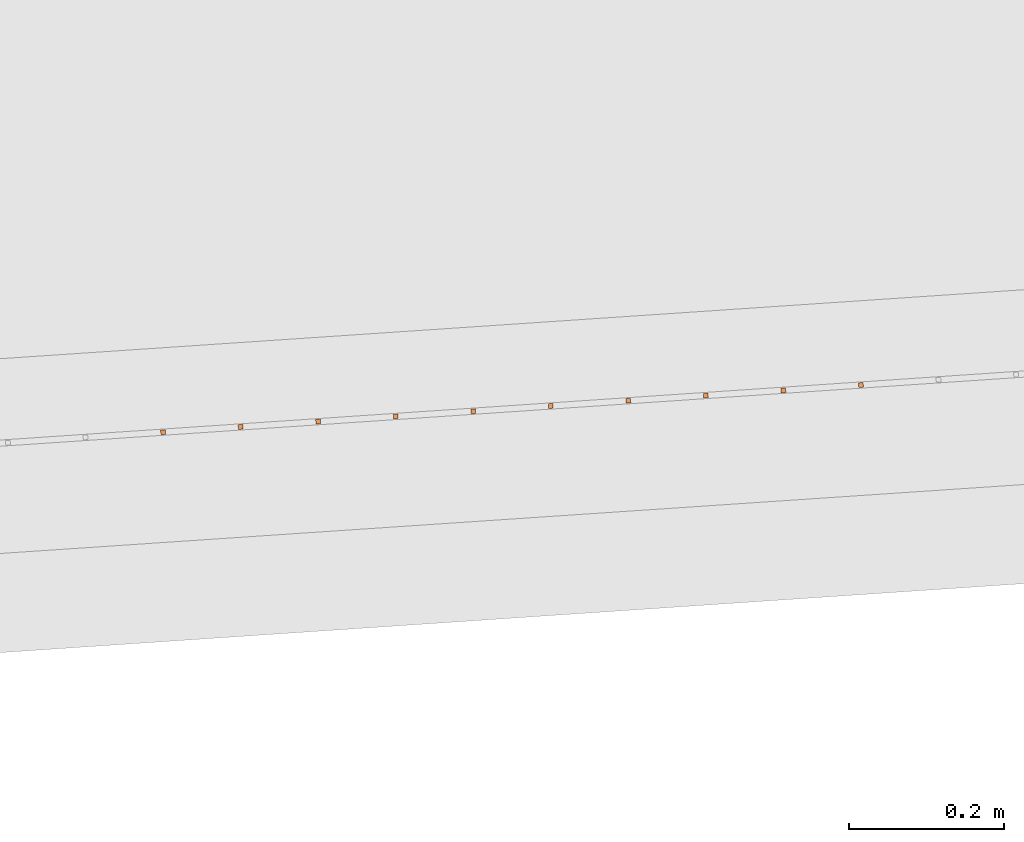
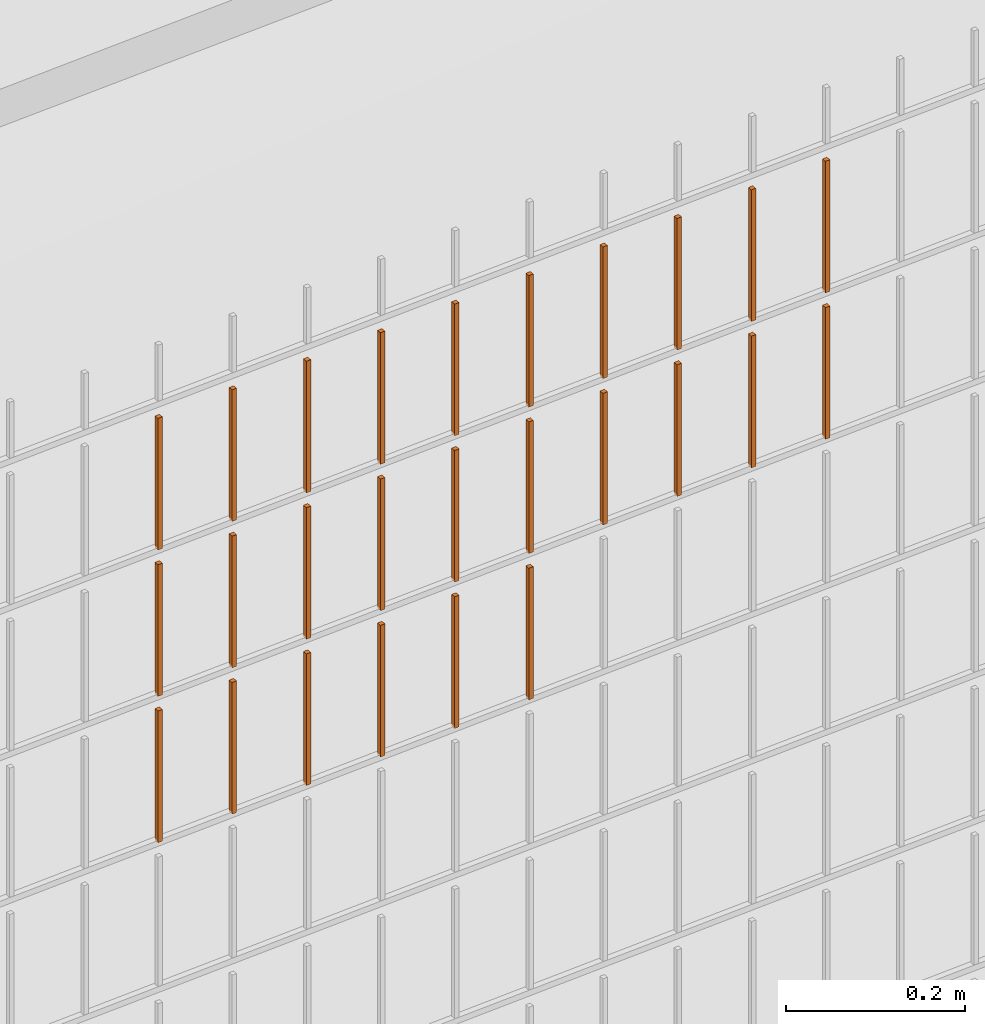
# One storey, part 282 of 1809: 26 proxies, 1 element without a shape of its own.
"""IFC2X3 building model written with IfcOpenShell, lengths in millimetres."""

from ifc_helpers import new_model, entity, si_unit, converted_unit, derived_unit, money_unit, direction, frame, origin_with_axes, place, context, subcontext, project, spatial, faceted_brep, source, transform, mapped, material, type_object, element, aggregate, save


model = new_model("IFC2X3")

# Units and contexts
model_context = context("Model", 3, precision=0.01, world=origin_with_axes(), true_north=direction((0.0, 1.0)))
body_context = subcontext(model_context, "Body", "Model", "MODEL_VIEW")
ifc_project = project(units=[si_unit("LENGTHUNIT", "METRE", prefix="MILLI"), si_unit("AREAUNIT", "SQUARE_METRE"), si_unit("VOLUMEUNIT", "CUBIC_METRE"), converted_unit("PLANEANGLEUNIT", "DEGREE", entity("IfcPlaneAngleMeasure", 0.0174532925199), si_unit("PLANEANGLEUNIT", "RADIAN"), dimensions=[0, 0, 0, 0, 0, 0, 0]), si_unit("SOLIDANGLEUNIT", "STERADIAN"), money_unit("EUR"), converted_unit("TIMEUNIT", "Year", entity("IfcTimeMeasure", 31556926.0), si_unit("TIMEUNIT", "SECOND"), dimensions=[0, 0, 1, 0, 0, 0, 0]), si_unit("MASSUNIT", "GRAM", prefix="KILO"), si_unit("THERMODYNAMICTEMPERATUREUNIT", "DEGREE_CELSIUS"), si_unit("LUMINOUSINTENSITYUNIT", "LUMEN"), si_unit("ENERGYUNIT", "JOULE", prefix="MEGA"), derived_unit("THERMALCONDUCTANCEUNIT", [(si_unit("POWERUNIT", "WATT"), 1), (si_unit("LENGTHUNIT", "METRE"), -1), (si_unit("THERMODYNAMICTEMPERATUREUNIT", "KELVIN"), -1)]), derived_unit("SPECIFICHEATCAPACITYUNIT", [(si_unit("ENERGYUNIT", "JOULE"), 1), (si_unit("MASSUNIT", "GRAM", prefix="KILO"), -1), (si_unit("THERMODYNAMICTEMPERATUREUNIT", "KELVIN"), -1)]), derived_unit("MASSDENSITYUNIT", [(si_unit("MASSUNIT", "GRAM", prefix="KILO"), 1), (si_unit("VOLUMEUNIT", "CUBIC_METRE"), -1)])], contexts=[model_context])

# Site, building, storey
site_placement = place(None, origin_with_axes())
site = spatial("IfcSite", under=ifc_project, at=site_placement, Name="Politse- ja Piirivalveameti ning Päästeameti ühishoone", CompositionType="ELEMENT")
building_placement = place(site_placement, origin_with_axes())
building = spatial("IfcBuilding", under=site, at=building_placement, Name="Politse- ja Piirivalveameti ning Päästeameti ühishoone", CompositionType="ELEMENT")
storey_placement = place(building_placement, origin_with_axes())
storey = spatial("IfcBuildingStorey", under=building, at=storey_placement, Name="Esimene korrus", CompositionType="ELEMENT", Elevation=0.0)

# Proxies
building_element_proxy_type_1 = type_object("IfcBuildingElementProxyType", Name="Railing Type", PredefinedType="NOTDEFINED")
proxy_1_placement = place(storey_placement, frame((89252.001212, -29183.4766571, 203.661247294), z_axis=(0.0, 0.0, 1.0), x_axis=(1.0, 0.0, 0.0)))
proxy_1 = element("IfcBuildingElementProxy", 1, at=proxy_1_placement, inside=storey, type_object=building_element_proxy_type_1, Name="PIIRDEAED")
ifc_material = material(Name="ET-03_Raud")
building_element_proxy_type_2 = type_object("IfcBuildingElementProxyType", Name="IfcBuildingElementProxy", PredefinedType="NOTDEFINED")
shared_shape_1 = source(origin_with_axes(), body_context, "Body", "Brep", [
    faceted_brep([(3.0, 3.0, -0.000752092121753), (-3.0, 3.0, -0.000752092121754), (-3.0, 3.0, 179.99926046), (3.0, 3.0, 179.99926046), (3.0, -3.0, 0.000752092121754), (-3.0, -3.0, 0.000752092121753), (-3.0, -3.0, 180.000764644), (3.0, -3.0, 180.000764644)], [[[0, 1, 2, 3]], [[0, 4, 5, 1]], [[1, 5, 6, 2]], [[3, 2, 6, 7]], [[4, 0, 3, 7]], [[5, 4, 7, 6]]]),
])
proxy_2_placement = place(proxy_1_placement, frame((-50212.2717659, -20689.4242251, 1614.617617), z_axis=(0.0, 0.0, 1.0), x_axis=(1.0, 0.0, 0.0)))
proxy_2 = element("IfcBuildingElementProxy", 2, at=proxy_2_placement, type_object=building_element_proxy_type_2, material=ifc_material, Name="BALUSTER - 001", context=body_context, shape_type="MappedRepresentation", body=[
    mapped(shared_shape_1, transform((0.0, 0.0, 0.0), x_axis=(-0.0673926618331, 0.997726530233, 0.0), y_axis=(-0.997726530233, -0.0673926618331, 0.0), z_axis=(0.0, 0.0, 1.0))),
])
shared_shape_2 = source(origin_with_axes(), body_context, "Body", "Brep", [
    faceted_brep([(3.0, 3.0, -0.000752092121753), (-3.0, 3.0, -0.000752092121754), (-3.0, 3.0, 179.99926046), (3.0, 3.0, 179.99926046), (3.0, -3.0, 0.000752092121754), (-3.0, -3.0, 0.000752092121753), (-3.0, -3.0, 180.000764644), (3.0, -3.0, 180.000764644)], [[[0, 1, 2, 3]], [[0, 4, 5, 1]], [[1, 5, 6, 2]], [[3, 2, 6, 7]], [[4, 0, 3, 7]], [[5, 4, 7, 6]]]),
])
proxy_3_placement = place(proxy_1_placement, frame((-50212.2717659, -20689.4242251, 1814.617617), z_axis=(0.0, 0.0, 1.0), x_axis=(1.0, 0.0, 0.0)))
proxy_3 = element("IfcBuildingElementProxy", 3, at=proxy_3_placement, type_object=building_element_proxy_type_2, material=ifc_material, Name="BALUSTER - 001", context=body_context, shape_type="MappedRepresentation", body=[
    mapped(shared_shape_2, transform((0.0, 0.0, 0.0), x_axis=(-0.0673926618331, 0.997726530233, 0.0), y_axis=(-0.997726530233, -0.0673926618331, 0.0), z_axis=(0.0, 0.0, 1.0))),
])
shared_shape_3 = source(origin_with_axes(), body_context, "Body", "Brep", [
    faceted_brep([(3.0, 3.0, -0.000752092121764), (-3.0, 3.0, -0.000752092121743), (-3.0, 3.0, 179.99926046), (3.0, 3.0, 179.99926046), (3.0, -3.0, 0.000752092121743), (-3.0, -3.0, 0.000752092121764), (-3.0, -3.0, 180.000764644), (3.0, -3.0, 180.000764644)], [[[0, 1, 2, 3]], [[0, 4, 5, 1]], [[1, 5, 6, 2]], [[3, 2, 6, 7]], [[4, 0, 3, 7]], [[5, 4, 7, 6]]]),
])
proxy_4_placement = place(proxy_1_placement, frame((-51110.2256431, -20750.0776208, 1414.39198936), z_axis=(0.0, 0.0, 1.0), x_axis=(1.0, 0.0, 0.0)))
proxy_4 = element("IfcBuildingElementProxy", 4, at=proxy_4_placement, type_object=building_element_proxy_type_2, material=ifc_material, Name="BALUSTER - 001", context=body_context, shape_type="MappedRepresentation", body=[
    mapped(shared_shape_3, transform((0.0, 0.0, 0.0), x_axis=(-0.0673926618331, 0.997726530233, 0.0), y_axis=(-0.997726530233, -0.0673926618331, 0.0), z_axis=(0.0, 0.0, 1.0))),
])
proxy_5_placement = place(proxy_1_placement, frame((-51110.2256431, -20750.0776208, 1614.39198936), z_axis=(0.0, 0.0, 1.0), x_axis=(1.0, 0.0, 0.0)))
proxy_5 = element("IfcBuildingElementProxy", 5, at=proxy_5_placement, type_object=building_element_proxy_type_2, material=ifc_material, Name="BALUSTER - 001", context=body_context, shape_type="MappedRepresentation", body=[
    mapped(shared_shape_3, transform((0.0, 0.0, 0.0), x_axis=(-0.0673926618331, 0.997726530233, 0.0), y_axis=(-0.997726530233, -0.0673926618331, 0.0), z_axis=(0.0, 0.0, 1.0))),
])
shared_shape_4 = source(origin_with_axes(), body_context, "Body", "Brep", [
    faceted_brep([(3.0, 3.0, -0.000752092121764), (-3.0, 3.0, -0.000752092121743), (-3.0, 3.0, 179.99926046), (3.0, 3.0, 179.99926046), (3.0, -3.0, 0.000752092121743), (-3.0, -3.0, 0.000752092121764), (-3.0, -3.0, 180.000764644), (3.0, -3.0, 180.000764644)], [[[0, 1, 2, 3]], [[0, 4, 5, 1]], [[1, 5, 6, 2]], [[3, 2, 6, 7]], [[4, 0, 3, 7]], [[5, 4, 7, 6]]]),
])
proxy_6_placement = place(proxy_1_placement, frame((-51110.2256431, -20750.0776208, 1814.39198936), z_axis=(0.0, 0.0, 1.0), x_axis=(1.0, 0.0, 0.0)))
proxy_6 = element("IfcBuildingElementProxy", 6, at=proxy_6_placement, type_object=building_element_proxy_type_2, material=ifc_material, Name="BALUSTER - 001", context=body_context, shape_type="MappedRepresentation", body=[
    mapped(shared_shape_4, transform((0.0, 0.0, 0.0), x_axis=(-0.0673926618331, 0.997726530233, 0.0), y_axis=(-0.997726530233, -0.0673926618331, 0.0), z_axis=(0.0, 0.0, 1.0))),
])
shared_shape_5 = source(origin_with_axes(), body_context, "Body", "Brep", [
    faceted_brep([(3.0, 3.0, -0.000752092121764), (-3.0, 3.0, -0.000752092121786), (-3.0, 3.0, 179.99926046), (3.0, 3.0, 179.99926046), (3.0, -3.0, 0.000752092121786), (-3.0, -3.0, 0.000752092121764), (-3.0, -3.0, 180.000764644), (3.0, -3.0, 180.000764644)], [[[0, 1, 2, 3]], [[0, 4, 5, 1]], [[1, 5, 6, 2]], [[3, 2, 6, 7]], [[4, 0, 3, 7]], [[5, 4, 7, 6]]]),
])
proxy_7_placement = place(proxy_1_placement, frame((-50711.135031, -20723.120556, 1814.49226831), z_axis=(0.0, 0.0, 1.0), x_axis=(1.0, 0.0, 0.0)))
proxy_7 = element("IfcBuildingElementProxy", 7, at=proxy_7_placement, type_object=building_element_proxy_type_2, material=ifc_material, Name="BALUSTER - 001", context=body_context, shape_type="MappedRepresentation", body=[
    mapped(shared_shape_5, transform((0.0, 0.0, 0.0), x_axis=(-0.0673926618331, 0.997726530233, 0.0), y_axis=(-0.997726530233, -0.0673926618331, 0.0), z_axis=(0.0, 0.0, 1.0))),
])
shared_shape_6 = source(origin_with_axes(), body_context, "Body", "Brep", [
    faceted_brep([(3.0, 3.0, -0.000752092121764), (-3.0, 3.0, -0.000752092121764), (-3.0, 3.0, 179.99926046), (3.0, 3.0, 179.99926046), (3.0, -3.0, 0.000752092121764), (-3.0, -3.0, 0.000752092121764), (-3.0, -3.0, 180.000764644), (3.0, -3.0, 180.000764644)], [[[0, 1, 2, 3]], [[0, 4, 5, 1]], [[1, 5, 6, 2]], [[3, 2, 6, 7]], [[4, 0, 3, 7]], [[5, 4, 7, 6]]]),
])
proxy_8_placement = place(proxy_1_placement, frame((-50411.817072, -20702.9027575, 1814.56747752), z_axis=(0.0, 0.0, 1.0), x_axis=(1.0, 0.0, 0.0)))
proxy_8 = element("IfcBuildingElementProxy", 8, at=proxy_8_placement, type_object=building_element_proxy_type_2, material=ifc_material, Name="BALUSTER - 001", context=body_context, shape_type="MappedRepresentation", body=[
    mapped(shared_shape_6, transform((0.0, 0.0, 0.0), x_axis=(-0.0673926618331, 0.997726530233, 0.0), y_axis=(-0.997726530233, -0.0673926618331, 0.0), z_axis=(0.0, 0.0, 1.0))),
])
shared_shape_7 = source(origin_with_axes(), body_context, "Body", "Brep", [
    faceted_brep([(3.0, 3.0, -0.000752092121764), (-3.0, 3.0, -0.000752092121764), (-3.0, 3.0, 179.99926046), (3.0, 3.0, 179.99926046), (3.0, -3.0, 0.000752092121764), (-3.0, -3.0, 0.000752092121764), (-3.0, -3.0, 180.000764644), (3.0, -3.0, 180.000764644)], [[[0, 1, 2, 3]], [[0, 4, 5, 1]], [[1, 5, 6, 2]], [[3, 2, 6, 7]], [[4, 0, 3, 7]], [[5, 4, 7, 6]]]),
])
proxy_9_placement = place(proxy_1_placement, frame((-50810.907684, -20729.8598222, 1414.46719857), z_axis=(0.0, 0.0, 1.0), x_axis=(1.0, 0.0, 0.0)))
proxy_9 = element("IfcBuildingElementProxy", 9, at=proxy_9_placement, type_object=building_element_proxy_type_2, material=ifc_material, Name="BALUSTER - 001", context=body_context, shape_type="MappedRepresentation", body=[
    mapped(shared_shape_7, transform((0.0, 0.0, 0.0), x_axis=(-0.0673926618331, 0.997726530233, 0.0), y_axis=(-0.997726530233, -0.0673926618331, 0.0), z_axis=(0.0, 0.0, 1.0))),
])
proxy_10_placement = place(proxy_1_placement, frame((-50810.907684, -20729.8598222, 1614.46719857), z_axis=(0.0, 0.0, 1.0), x_axis=(1.0, 0.0, 0.0)))
proxy_10 = element("IfcBuildingElementProxy", 10, at=proxy_10_placement, type_object=building_element_proxy_type_2, material=ifc_material, Name="BALUSTER - 001", context=body_context, shape_type="MappedRepresentation", body=[
    mapped(shared_shape_7, transform((0.0, 0.0, 0.0), x_axis=(-0.0673926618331, 0.997726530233, 0.0), y_axis=(-0.997726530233, -0.0673926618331, 0.0), z_axis=(0.0, 0.0, 1.0))),
])
shared_shape_8 = source(origin_with_axes(), body_context, "Body", "Brep", [
    faceted_brep([(3.0, 3.0, -0.000752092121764), (-3.0, 3.0, -0.000752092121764), (-3.0, 3.0, 179.99926046), (3.0, 3.0, 179.99926046), (3.0, -3.0, 0.000752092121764), (-3.0, -3.0, 0.000752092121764), (-3.0, -3.0, 180.000764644), (3.0, -3.0, 180.000764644)], [[[0, 1, 2, 3]], [[0, 4, 5, 1]], [[1, 5, 6, 2]], [[3, 2, 6, 7]], [[4, 0, 3, 7]], [[5, 4, 7, 6]]]),
])
proxy_11_placement = place(proxy_1_placement, frame((-50810.907684, -20729.8598222, 1814.46719857), z_axis=(0.0, 0.0, 1.0), x_axis=(1.0, 0.0, 0.0)))
proxy_11 = element("IfcBuildingElementProxy", 11, at=proxy_11_placement, type_object=building_element_proxy_type_2, material=ifc_material, Name="BALUSTER - 001", context=body_context, shape_type="MappedRepresentation", body=[
    mapped(shared_shape_8, transform((0.0, 0.0, 0.0), x_axis=(-0.0673926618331, 0.997726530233, 0.0), y_axis=(-0.997726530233, -0.0673926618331, 0.0), z_axis=(0.0, 0.0, 1.0))),
])
shared_shape_9 = source(origin_with_axes(), body_context, "Body", "Brep", [
    faceted_brep([(3.0, 3.0, -0.000752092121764), (-3.0, 3.0, -0.000752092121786), (-3.0, 3.0, 179.99926046), (3.0, 3.0, 179.99926046), (3.0, -3.0, 0.000752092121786), (-3.0, -3.0, 0.000752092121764), (-3.0, -3.0, 180.000764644), (3.0, -3.0, 180.000764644)], [[[0, 1, 2, 3]], [[0, 4, 5, 1]], [[1, 5, 6, 2]], [[3, 2, 6, 7]], [[4, 0, 3, 7]], [[5, 4, 7, 6]]]),
])
proxy_12_placement = place(proxy_1_placement, frame((-51010.4529901, -20743.3383546, 1814.4170591), z_axis=(0.0, 0.0, 1.0), x_axis=(1.0, 0.0, 0.0)))
proxy_12 = element("IfcBuildingElementProxy", 12, at=proxy_12_placement, type_object=building_element_proxy_type_2, material=ifc_material, Name="BALUSTER - 001", context=body_context, shape_type="MappedRepresentation", body=[
    mapped(shared_shape_9, transform((0.0, 0.0, 0.0), x_axis=(-0.0673926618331, 0.997726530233, 0.0), y_axis=(-0.997726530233, -0.0673926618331, 0.0), z_axis=(0.0, 0.0, 1.0))),
])
shared_shape_10 = source(origin_with_axes(), body_context, "Body", "Brep", [
    faceted_brep([(3.0, 3.0, -0.000752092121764), (-3.0, 3.0, -0.000752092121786), (-3.0, 3.0, 179.99926046), (3.0, 3.0, 179.99926046), (3.0, -3.0, 0.000752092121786), (-3.0, -3.0, 0.000752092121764), (-3.0, -3.0, 180.000764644), (3.0, -3.0, 180.000764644)], [[[0, 1, 2, 3]], [[0, 4, 5, 1]], [[1, 5, 6, 2]], [[3, 2, 6, 7]], [[4, 0, 3, 7]], [[5, 4, 7, 6]]]),
])
proxy_13_placement = place(proxy_1_placement, frame((-51010.4529901, -20743.3383546, 1414.4170591), z_axis=(0.0, 0.0, 1.0), x_axis=(1.0, 0.0, 0.0)))
proxy_13 = element("IfcBuildingElementProxy", 13, at=proxy_13_placement, type_object=building_element_proxy_type_2, material=ifc_material, Name="BALUSTER - 001", context=body_context, shape_type="MappedRepresentation", body=[
    mapped(shared_shape_10, transform((0.0, 0.0, 0.0), x_axis=(-0.0673926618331, 0.997726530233, 0.0), y_axis=(-0.997726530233, -0.0673926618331, 0.0), z_axis=(0.0, 0.0, 1.0))),
])
proxy_14_placement = place(proxy_1_placement, frame((-51010.4529901, -20743.3383546, 1614.4170591), z_axis=(0.0, 0.0, 1.0), x_axis=(1.0, 0.0, 0.0)))
proxy_14 = element("IfcBuildingElementProxy", 14, at=proxy_14_placement, type_object=building_element_proxy_type_2, material=ifc_material, Name="BALUSTER - 001", context=body_context, shape_type="MappedRepresentation", body=[
    mapped(shared_shape_10, transform((0.0, 0.0, 0.0), x_axis=(-0.0673926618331, 0.997726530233, 0.0), y_axis=(-0.997726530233, -0.0673926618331, 0.0), z_axis=(0.0, 0.0, 1.0))),
])
shared_shape_11 = source(origin_with_axes(), body_context, "Body", "Brep", [
    faceted_brep([(3.0, 3.0, -0.000752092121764), (-3.0, 3.0, -0.000752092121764), (-3.0, 3.0, 179.99926046), (3.0, 3.0, 179.99926046), (3.0, -3.0, 0.000752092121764), (-3.0, -3.0, 0.000752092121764), (-3.0, -3.0, 180.000764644), (3.0, -3.0, 180.000764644)], [[[0, 1, 2, 3]], [[0, 4, 5, 1]], [[1, 5, 6, 2]], [[3, 2, 6, 7]], [[4, 0, 3, 7]], [[5, 4, 7, 6]]]),
])
proxy_15_placement = place(proxy_1_placement, frame((-50611.362378, -20716.3812898, 1814.51733805), z_axis=(0.0, 0.0, 1.0), x_axis=(1.0, 0.0, 0.0)))
proxy_15 = element("IfcBuildingElementProxy", 15, at=proxy_15_placement, type_object=building_element_proxy_type_2, material=ifc_material, Name="BALUSTER - 001", context=body_context, shape_type="MappedRepresentation", body=[
    mapped(shared_shape_11, transform((0.0, 0.0, 0.0), x_axis=(-0.0673926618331, 0.997726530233, 0.0), y_axis=(-0.997726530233, -0.0673926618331, 0.0), z_axis=(0.0, 0.0, 1.0))),
])
shared_shape_12 = source(origin_with_axes(), body_context, "Body", "Brep", [
    faceted_brep([(3.0, 3.0, -0.000752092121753), (-3.0, 3.0, -0.000752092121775), (-3.0, 3.0, 179.99926046), (3.0, 3.0, 179.99926046), (3.0, -3.0, 0.000752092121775), (-3.0, -3.0, 0.000752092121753), (-3.0, -3.0, 180.000764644), (3.0, -3.0, 180.000764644)], [[[0, 1, 2, 3]], [[0, 4, 5, 1]], [[1, 5, 6, 2]], [[3, 2, 6, 7]], [[4, 0, 3, 7]], [[5, 4, 7, 6]]]),
])
proxy_16_placement = place(proxy_1_placement, frame((-50511.589725, -20709.6420237, 1614.54240779), z_axis=(0.0, 0.0, 1.0), x_axis=(1.0, 0.0, 0.0)))
proxy_16 = element("IfcBuildingElementProxy", 16, at=proxy_16_placement, type_object=building_element_proxy_type_2, material=ifc_material, Name="BALUSTER - 001", context=body_context, shape_type="MappedRepresentation", body=[
    mapped(shared_shape_12, transform((0.0, 0.0, 0.0), x_axis=(-0.0673926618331, 0.997726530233, 0.0), y_axis=(-0.997726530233, -0.0673926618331, 0.0), z_axis=(0.0, 0.0, 1.0))),
])
shared_shape_13 = source(origin_with_axes(), body_context, "Body", "Brep", [
    faceted_brep([(3.0, 3.0, -0.000752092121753), (-3.0, 3.0, -0.000752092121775), (-3.0, 3.0, 179.99926046), (3.0, 3.0, 179.99926046), (3.0, -3.0, 0.000752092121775), (-3.0, -3.0, 0.000752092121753), (-3.0, -3.0, 180.000764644), (3.0, -3.0, 180.000764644)], [[[0, 1, 2, 3]], [[0, 4, 5, 1]], [[1, 5, 6, 2]], [[3, 2, 6, 7]], [[4, 0, 3, 7]], [[5, 4, 7, 6]]]),
])
proxy_17_placement = place(proxy_1_placement, frame((-50511.589725, -20709.6420237, 1814.54240779), z_axis=(0.0, 0.0, 1.0), x_axis=(1.0, 0.0, 0.0)))
proxy_17 = element("IfcBuildingElementProxy", 17, at=proxy_17_placement, type_object=building_element_proxy_type_2, material=ifc_material, Name="BALUSTER - 001", context=body_context, shape_type="MappedRepresentation", body=[
    mapped(shared_shape_13, transform((0.0, 0.0, 0.0), x_axis=(-0.0673926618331, 0.997726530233, 0.0), y_axis=(-0.997726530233, -0.0673926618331, 0.0), z_axis=(0.0, 0.0, 1.0))),
])
shared_shape_14 = source(origin_with_axes(), body_context, "Body", "Brep", [
    faceted_brep([(3.0, 3.0, -0.000752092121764), (-3.0, 3.0, -0.000752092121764), (-3.0, 3.0, 179.99926046), (3.0, 3.0, 179.99926046), (3.0, -3.0, 0.000752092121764), (-3.0, -3.0, 0.000752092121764), (-3.0, -3.0, 180.000764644), (3.0, -3.0, 180.000764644)], [[[0, 1, 2, 3]], [[0, 4, 5, 1]], [[1, 5, 6, 2]], [[3, 2, 6, 7]], [[4, 0, 3, 7]], [[5, 4, 7, 6]]]),
])
proxy_18_placement = place(proxy_1_placement, frame((-50611.362378, -20716.3812898, 1414.51733805), z_axis=(0.0, 0.0, 1.0), x_axis=(1.0, 0.0, 0.0)))
proxy_18 = element("IfcBuildingElementProxy", 18, at=proxy_18_placement, type_object=building_element_proxy_type_2, material=ifc_material, Name="BALUSTER - 001", context=body_context, shape_type="MappedRepresentation", body=[
    mapped(shared_shape_14, transform((0.0, 0.0, 0.0), x_axis=(-0.0673926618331, 0.997726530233, 0.0), y_axis=(-0.997726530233, -0.0673926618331, 0.0), z_axis=(0.0, 0.0, 1.0))),
])
proxy_19_placement = place(proxy_1_placement, frame((-50611.362378, -20716.3812898, 1614.51733805), z_axis=(0.0, 0.0, 1.0), x_axis=(1.0, 0.0, 0.0)))
proxy_19 = element("IfcBuildingElementProxy", 19, at=proxy_19_placement, type_object=building_element_proxy_type_2, material=ifc_material, Name="BALUSTER - 001", context=body_context, shape_type="MappedRepresentation", body=[
    mapped(shared_shape_14, transform((0.0, 0.0, 0.0), x_axis=(-0.0673926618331, 0.997726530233, 0.0), y_axis=(-0.997726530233, -0.0673926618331, 0.0), z_axis=(0.0, 0.0, 1.0))),
])
shared_shape_15 = source(origin_with_axes(), body_context, "Body", "Brep", [
    faceted_brep([(3.0, 3.0, -0.000752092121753), (-3.0, 3.0, -0.000752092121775), (-3.0, 3.0, 179.99926046), (3.0, 3.0, 179.99926046), (3.0, -3.0, 0.000752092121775), (-3.0, -3.0, 0.000752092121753), (-3.0, -3.0, 180.000764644), (3.0, -3.0, 180.000764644)], [[[0, 1, 2, 3]], [[0, 4, 5, 1]], [[1, 5, 6, 2]], [[3, 2, 6, 7]], [[4, 0, 3, 7]], [[5, 4, 7, 6]]]),
])
proxy_20_placement = place(proxy_1_placement, frame((-50910.6803371, -20736.5990884, 1414.44212884), z_axis=(0.0, 0.0, 1.0), x_axis=(1.0, 0.0, 0.0)))
proxy_20 = element("IfcBuildingElementProxy", 20, at=proxy_20_placement, type_object=building_element_proxy_type_2, material=ifc_material, Name="BALUSTER - 001", context=body_context, shape_type="MappedRepresentation", body=[
    mapped(shared_shape_15, transform((0.0, 0.0, 0.0), x_axis=(-0.0673926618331, 0.997726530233, 0.0), y_axis=(-0.997726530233, -0.0673926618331, 0.0), z_axis=(0.0, 0.0, 1.0))),
])
proxy_21_placement = place(proxy_1_placement, frame((-50910.6803371, -20736.5990884, 1614.44212884), z_axis=(0.0, 0.0, 1.0), x_axis=(1.0, 0.0, 0.0)))
proxy_21 = element("IfcBuildingElementProxy", 21, at=proxy_21_placement, type_object=building_element_proxy_type_2, material=ifc_material, Name="BALUSTER - 001", context=body_context, shape_type="MappedRepresentation", body=[
    mapped(shared_shape_15, transform((0.0, 0.0, 0.0), x_axis=(-0.0673926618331, 0.997726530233, 0.0), y_axis=(-0.997726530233, -0.0673926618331, 0.0), z_axis=(0.0, 0.0, 1.0))),
])
shared_shape_16 = source(origin_with_axes(), body_context, "Body", "Brep", [
    faceted_brep([(3.0, 3.0, -0.000752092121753), (-3.0, 3.0, -0.000752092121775), (-3.0, 3.0, 179.99926046), (3.0, 3.0, 179.99926046), (3.0, -3.0, 0.000752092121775), (-3.0, -3.0, 0.000752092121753), (-3.0, -3.0, 180.000764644), (3.0, -3.0, 180.000764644)], [[[0, 1, 2, 3]], [[0, 4, 5, 1]], [[1, 5, 6, 2]], [[3, 2, 6, 7]], [[4, 0, 3, 7]], [[5, 4, 7, 6]]]),
])
proxy_22_placement = place(proxy_1_placement, frame((-50910.6803371, -20736.5990884, 1814.44212884), z_axis=(0.0, 0.0, 1.0), x_axis=(1.0, 0.0, 0.0)))
proxy_22 = element("IfcBuildingElementProxy", 22, at=proxy_22_placement, type_object=building_element_proxy_type_2, material=ifc_material, Name="BALUSTER - 001", context=body_context, shape_type="MappedRepresentation", body=[
    mapped(shared_shape_16, transform((0.0, 0.0, 0.0), x_axis=(-0.0673926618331, 0.997726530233, 0.0), y_axis=(-0.997726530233, -0.0673926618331, 0.0), z_axis=(0.0, 0.0, 1.0))),
])
shared_shape_17 = source(origin_with_axes(), body_context, "Body", "Brep", [
    faceted_brep([(3.0, 3.0, -0.000752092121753), (-3.0, 3.0, -0.000752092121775), (-3.0, 3.0, 179.99926046), (3.0, 3.0, 179.99926046), (3.0, -3.0, 0.000752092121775), (-3.0, -3.0, 0.000752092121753), (-3.0, -3.0, 180.000764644), (3.0, -3.0, 180.000764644)], [[[0, 1, 2, 3]], [[0, 4, 5, 1]], [[1, 5, 6, 2]], [[3, 2, 6, 7]], [[4, 0, 3, 7]], [[5, 4, 7, 6]]]),
])
proxy_23_placement = place(proxy_1_placement, frame((-50312.0444189, -20696.1634913, 1814.59254726), z_axis=(0.0, 0.0, 1.0), x_axis=(1.0, 0.0, 0.0)))
proxy_23 = element("IfcBuildingElementProxy", 23, at=proxy_23_placement, type_object=building_element_proxy_type_2, material=ifc_material, Name="BALUSTER - 001", context=body_context, shape_type="MappedRepresentation", body=[
    mapped(shared_shape_17, transform((0.0, 0.0, 0.0), x_axis=(-0.0673926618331, 0.997726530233, 0.0), y_axis=(-0.997726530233, -0.0673926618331, 0.0), z_axis=(0.0, 0.0, 1.0))),
])
shared_shape_18 = source(origin_with_axes(), body_context, "Body", "Brep", [
    faceted_brep([(3.0, 3.0, -0.000752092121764), (-3.0, 3.0, -0.000752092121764), (-3.0, 3.0, 179.99926046), (3.0, 3.0, 179.99926046), (3.0, -3.0, 0.000752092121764), (-3.0, -3.0, 0.000752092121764), (-3.0, -3.0, 180.000764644), (3.0, -3.0, 180.000764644)], [[[0, 1, 2, 3]], [[0, 4, 5, 1]], [[1, 5, 6, 2]], [[3, 2, 6, 7]], [[4, 0, 3, 7]], [[5, 4, 7, 6]]]),
])
proxy_24_placement = place(proxy_1_placement, frame((-50411.817072, -20702.9027575, 1614.56747752), z_axis=(0.0, 0.0, 1.0), x_axis=(1.0, 0.0, 0.0)))
proxy_24 = element("IfcBuildingElementProxy", 24, at=proxy_24_placement, type_object=building_element_proxy_type_2, material=ifc_material, Name="BALUSTER - 001", context=body_context, shape_type="MappedRepresentation", body=[
    mapped(shared_shape_18, transform((0.0, 0.0, 0.0), x_axis=(-0.0673926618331, 0.997726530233, 0.0), y_axis=(-0.997726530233, -0.0673926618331, 0.0), z_axis=(0.0, 0.0, 1.0))),
])
shared_shape_19 = source(origin_with_axes(), body_context, "Body", "Brep", [
    faceted_brep([(3.0, 3.0, -0.000752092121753), (-3.0, 3.0, -0.000752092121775), (-3.0, 3.0, 179.99926046), (3.0, 3.0, 179.99926046), (3.0, -3.0, 0.000752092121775), (-3.0, -3.0, 0.000752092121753), (-3.0, -3.0, 180.000764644), (3.0, -3.0, 180.000764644)], [[[0, 1, 2, 3]], [[0, 4, 5, 1]], [[1, 5, 6, 2]], [[3, 2, 6, 7]], [[4, 0, 3, 7]], [[5, 4, 7, 6]]]),
])
proxy_25_placement = place(proxy_1_placement, frame((-50312.0444189, -20696.1634913, 1614.59254726), z_axis=(0.0, 0.0, 1.0), x_axis=(1.0, 0.0, 0.0)))
proxy_25 = element("IfcBuildingElementProxy", 25, at=proxy_25_placement, type_object=building_element_proxy_type_2, material=ifc_material, Name="BALUSTER - 001", context=body_context, shape_type="MappedRepresentation", body=[
    mapped(shared_shape_19, transform((0.0, 0.0, 0.0), x_axis=(-0.0673926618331, 0.997726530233, 0.0), y_axis=(-0.997726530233, -0.0673926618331, 0.0), z_axis=(0.0, 0.0, 1.0))),
])
shared_shape_20 = source(origin_with_axes(), body_context, "Body", "Brep", [
    faceted_brep([(3.0, 3.0, -0.000752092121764), (-3.0, 3.0, -0.000752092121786), (-3.0, 3.0, 179.99926046), (3.0, 3.0, 179.99926046), (3.0, -3.0, 0.000752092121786), (-3.0, -3.0, 0.000752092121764), (-3.0, -3.0, 180.000764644), (3.0, -3.0, 180.000764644)], [[[0, 1, 2, 3]], [[0, 4, 5, 1]], [[1, 5, 6, 2]], [[3, 2, 6, 7]], [[4, 0, 3, 7]], [[5, 4, 7, 6]]]),
])
proxy_26_placement = place(proxy_1_placement, frame((-50711.135031, -20723.120556, 1414.49226831), z_axis=(0.0, 0.0, 1.0), x_axis=(1.0, 0.0, 0.0)))
proxy_26 = element("IfcBuildingElementProxy", 26, at=proxy_26_placement, type_object=building_element_proxy_type_2, material=ifc_material, Name="BALUSTER - 001", context=body_context, shape_type="MappedRepresentation", body=[
    mapped(shared_shape_20, transform((0.0, 0.0, 0.0), x_axis=(-0.0673926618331, 0.997726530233, 0.0), y_axis=(-0.997726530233, -0.0673926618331, 0.0), z_axis=(0.0, 0.0, 1.0))),
])
proxy_27_placement = place(proxy_1_placement, frame((-50711.135031, -20723.120556, 1614.49226831), z_axis=(0.0, 0.0, 1.0), x_axis=(1.0, 0.0, 0.0)))
proxy_27 = element("IfcBuildingElementProxy", 27, at=proxy_27_placement, type_object=building_element_proxy_type_2, material=ifc_material, Name="BALUSTER - 001", context=body_context, shape_type="MappedRepresentation", body=[
    mapped(shared_shape_20, transform((0.0, 0.0, 0.0), x_axis=(-0.0673926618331, 0.997726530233, 0.0), y_axis=(-0.997726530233, -0.0673926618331, 0.0), z_axis=(0.0, 0.0, 1.0))),
])
aggregate(proxy_1, [proxy_18, proxy_26, proxy_9, proxy_20, proxy_13, proxy_4, proxy_2, proxy_25, proxy_24, proxy_16, proxy_19, proxy_27, proxy_10, proxy_21, proxy_14, proxy_5, proxy_3, proxy_23, proxy_8, proxy_17, proxy_15, proxy_7, proxy_11, proxy_22, proxy_12, proxy_6])

save(model, "model.ifc")
